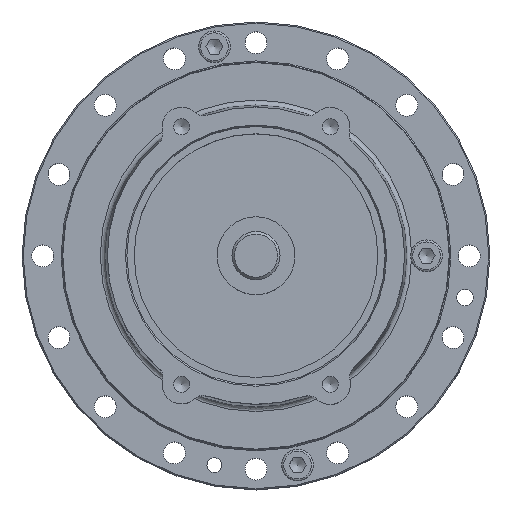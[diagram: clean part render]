
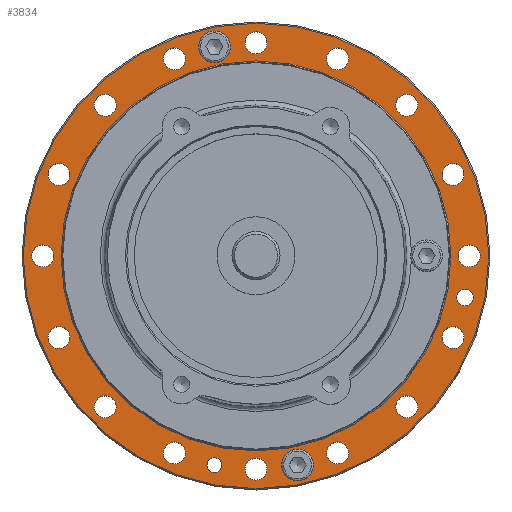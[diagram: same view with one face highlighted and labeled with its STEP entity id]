
A CAD part, top view. The second image highlights one B-rep face of the part: STEP entity #3834.
In plain terms, the highlighted planar face has unit normal (0, 0, 1).
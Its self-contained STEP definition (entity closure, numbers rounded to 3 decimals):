
#410=CARTESIAN_POINT('',(-14.02,-85.819,4.7));
#411=VERTEX_POINT('',#410);
#412=CARTESIAN_POINT('',(-17.07,-85.819,4.7));
#413=DIRECTION('',(0.0,0.0,-1.0));
#414=DIRECTION('',(-1.0,0.0,0.0));
#415=AXIS2_PLACEMENT_3D('',#412,#413,#414);
#416=CIRCLE('',#415,3.05);
#417=EDGE_CURVE('',#411,#411,#416,.T.);
#775=CARTESIAN_POINT('',(89.219,-17.07,4.7));
#776=VERTEX_POINT('',#775);
#777=CARTESIAN_POINT('',(85.819,-17.07,4.7));
#778=DIRECTION('',(0.0,0.0,-1.0));
#779=DIRECTION('',(-1.0,0.0,0.0));
#780=AXIS2_PLACEMENT_3D('',#777,#778,#779);
#781=CIRCLE('',#780,3.4);
#782=EDGE_CURVE('',#776,#776,#781,.T.);
#1466=CARTESIAN_POINT('',(20.394,-85.819,4.7));
#1467=VERTEX_POINT('',#1466);
#1468=CARTESIAN_POINT('',(17.07,-85.819,4.7));
#1469=DIRECTION('',(0.0,0.0,-1.0));
#1470=DIRECTION('',(-1.0,0.0,0.0));
#1471=AXIS2_PLACEMENT_3D('',#1468,#1469,#1470);
#1472=CIRCLE('',#1471,3.324);
#1473=EDGE_CURVE('',#1467,#1467,#1472,.T.);
#1515=CARTESIAN_POINT('',(-13.747,85.819,4.7));
#1516=VERTEX_POINT('',#1515);
#1517=CARTESIAN_POINT('',(-17.07,85.819,4.7));
#1518=DIRECTION('',(0.0,0.0,-1.0));
#1519=DIRECTION('',(-1.0,0.0,0.0));
#1520=AXIS2_PLACEMENT_3D('',#1517,#1518,#1519);
#1521=CIRCLE('',#1520,3.324);
#1522=EDGE_CURVE('',#1516,#1516,#1521,.T.);
#1564=CARTESIAN_POINT('',(65.054,-65.054,4.7));
#1565=VERTEX_POINT('',#1564);
#1566=CARTESIAN_POINT('',(61.872,-61.872,4.7));
#1567=DIRECTION('',(0.0,0.0,-1.0));
#1568=DIRECTION('',(-0.707,0.707,0.0));
#1569=AXIS2_PLACEMENT_3D('',#1566,#1567,#1568);
#1570=CIRCLE('',#1569,4.5);
#1571=EDGE_CURVE('',#1565,#1565,#1570,.T.);
#1613=CARTESIAN_POINT('',(35.207,-84.997,4.7));
#1614=VERTEX_POINT('',#1613);
#1615=CARTESIAN_POINT('',(33.485,-80.839,4.7));
#1616=DIRECTION('',(0.0,0.0,-1.));
#1617=DIRECTION('',(-0.383,0.924,0.0));
#1618=AXIS2_PLACEMENT_3D('',#1615,#1616,#1617);
#1619=CIRCLE('',#1618,4.5);
#1620=EDGE_CURVE('',#1614,#1614,#1619,.T.);
#1662=CARTESIAN_POINT('',(0.,-92.,4.7));
#1663=VERTEX_POINT('',#1662);
#1664=CARTESIAN_POINT('',(0.,-87.5,4.7));
#1665=DIRECTION('',(0.0,0.0,-1.0));
#1666=DIRECTION('',(0.0,1.0,0.0));
#1667=AXIS2_PLACEMENT_3D('',#1664,#1665,#1666);
#1668=CIRCLE('',#1667,4.5);
#1669=EDGE_CURVE('',#1663,#1663,#1668,.T.);
#1711=CARTESIAN_POINT('',(-35.207,-84.997,4.7));
#1712=VERTEX_POINT('',#1711);
#1713=CARTESIAN_POINT('',(-33.485,-80.839,4.7));
#1714=DIRECTION('',(0.0,0.0,-1.0));
#1715=DIRECTION('',(0.383,0.924,0.0));
#1716=AXIS2_PLACEMENT_3D('',#1713,#1714,#1715);
#1717=CIRCLE('',#1716,4.5);
#1718=EDGE_CURVE('',#1712,#1712,#1717,.T.);
#1760=CARTESIAN_POINT('',(-65.054,-65.054,4.7));
#1761=VERTEX_POINT('',#1760);
#1762=CARTESIAN_POINT('',(-61.872,-61.872,4.7));
#1763=DIRECTION('',(0.0,0.0,-1.));
#1764=DIRECTION('',(0.707,0.707,0.0));
#1765=AXIS2_PLACEMENT_3D('',#1762,#1763,#1764);
#1766=CIRCLE('',#1765,4.5);
#1767=EDGE_CURVE('',#1761,#1761,#1766,.T.);
#1809=CARTESIAN_POINT('',(-84.997,-35.207,4.7));
#1810=VERTEX_POINT('',#1809);
#1811=CARTESIAN_POINT('',(-80.839,-33.485,4.7));
#1812=DIRECTION('',(0.0,0.0,-1.0));
#1813=DIRECTION('',(0.924,0.383,0.0));
#1814=AXIS2_PLACEMENT_3D('',#1811,#1812,#1813);
#1815=CIRCLE('',#1814,4.5);
#1816=EDGE_CURVE('',#1810,#1810,#1815,.T.);
#1858=CARTESIAN_POINT('',(-92.,0.,4.7));
#1859=VERTEX_POINT('',#1858);
#1860=CARTESIAN_POINT('',(-87.5,0.,4.7));
#1861=DIRECTION('',(0.0,0.0,-1.0));
#1862=DIRECTION('',(1.0,0.0,0.0));
#1863=AXIS2_PLACEMENT_3D('',#1860,#1861,#1862);
#1864=CIRCLE('',#1863,4.5);
#1865=EDGE_CURVE('',#1859,#1859,#1864,.T.);
#1907=CARTESIAN_POINT('',(-84.997,35.207,4.7));
#1908=VERTEX_POINT('',#1907);
#1909=CARTESIAN_POINT('',(-80.839,33.485,4.7));
#1910=DIRECTION('',(0.0,0.0,-1.));
#1911=DIRECTION('',(0.924,-0.383,0.0));
#1912=AXIS2_PLACEMENT_3D('',#1909,#1910,#1911);
#1913=CIRCLE('',#1912,4.5);
#1914=EDGE_CURVE('',#1908,#1908,#1913,.T.);
#1956=CARTESIAN_POINT('',(-65.054,65.054,4.7));
#1957=VERTEX_POINT('',#1956);
#1958=CARTESIAN_POINT('',(-61.872,61.872,4.7));
#1959=DIRECTION('',(0.0,0.0,-1.0));
#1960=DIRECTION('',(0.707,-0.707,0.0));
#1961=AXIS2_PLACEMENT_3D('',#1958,#1959,#1960);
#1962=CIRCLE('',#1961,4.5);
#1963=EDGE_CURVE('',#1957,#1957,#1962,.T.);
#2005=CARTESIAN_POINT('',(-35.207,84.997,4.7));
#2006=VERTEX_POINT('',#2005);
#2007=CARTESIAN_POINT('',(-33.485,80.839,4.7));
#2008=DIRECTION('',(0.0,0.0,-1.));
#2009=DIRECTION('',(0.383,-0.924,0.0));
#2010=AXIS2_PLACEMENT_3D('',#2007,#2008,#2009);
#2011=CIRCLE('',#2010,4.5);
#2012=EDGE_CURVE('',#2006,#2006,#2011,.T.);
#2054=CARTESIAN_POINT('',(0.,92.,4.7));
#2055=VERTEX_POINT('',#2054);
#2056=CARTESIAN_POINT('',(0.,87.5,4.7));
#2057=DIRECTION('',(0.0,0.0,-1.0));
#2058=DIRECTION('',(0.0,-1.0,0.0));
#2059=AXIS2_PLACEMENT_3D('',#2056,#2057,#2058);
#2060=CIRCLE('',#2059,4.5);
#2061=EDGE_CURVE('',#2055,#2055,#2060,.T.);
#2103=CARTESIAN_POINT('',(35.207,84.997,4.7));
#2104=VERTEX_POINT('',#2103);
#2105=CARTESIAN_POINT('',(33.485,80.839,4.7));
#2106=DIRECTION('',(0.0,0.0,-1.));
#2107=DIRECTION('',(-0.383,-0.924,0.0));
#2108=AXIS2_PLACEMENT_3D('',#2105,#2106,#2107);
#2109=CIRCLE('',#2108,4.5);
#2110=EDGE_CURVE('',#2104,#2104,#2109,.T.);
#2152=CARTESIAN_POINT('',(65.054,65.054,4.7));
#2153=VERTEX_POINT('',#2152);
#2154=CARTESIAN_POINT('',(61.872,61.872,4.7));
#2155=DIRECTION('',(0.0,0.0,-1.));
#2156=DIRECTION('',(-0.707,-0.707,0.0));
#2157=AXIS2_PLACEMENT_3D('',#2154,#2155,#2156);
#2158=CIRCLE('',#2157,4.5);
#2159=EDGE_CURVE('',#2153,#2153,#2158,.T.);
#2201=CARTESIAN_POINT('',(84.997,35.207,4.7));
#2202=VERTEX_POINT('',#2201);
#2203=CARTESIAN_POINT('',(80.839,33.485,4.7));
#2204=DIRECTION('',(0.0,0.0,-1.));
#2205=DIRECTION('',(-0.924,-0.383,0.0));
#2206=AXIS2_PLACEMENT_3D('',#2203,#2204,#2205);
#2207=CIRCLE('',#2206,4.5);
#2208=EDGE_CURVE('',#2202,#2202,#2207,.T.);
#2250=CARTESIAN_POINT('',(84.997,-35.207,4.7));
#2251=VERTEX_POINT('',#2250);
#2252=CARTESIAN_POINT('',(80.839,-33.485,4.7));
#2253=DIRECTION('',(0.0,0.0,-1.0));
#2254=DIRECTION('',(-0.924,0.383,0.0));
#2255=AXIS2_PLACEMENT_3D('',#2252,#2253,#2254);
#2256=CIRCLE('',#2255,4.5);
#2257=EDGE_CURVE('',#2251,#2251,#2256,.T.);
#2299=CARTESIAN_POINT('',(92.,0.,4.7));
#2300=VERTEX_POINT('',#2299);
#2301=CARTESIAN_POINT('',(87.5,0.,4.7));
#2302=DIRECTION('',(0.0,0.0,-1.0));
#2303=DIRECTION('',(-1.0,0.0,0.0));
#2304=AXIS2_PLACEMENT_3D('',#2301,#2302,#2303);
#2305=CIRCLE('',#2304,4.5);
#2306=EDGE_CURVE('',#2300,#2300,#2305,.T.);
#3660=CARTESIAN_POINT('',(80.0,0.,4.7));
#3661=VERTEX_POINT('',#3660);
#3662=CARTESIAN_POINT('',(0.0,0.0,4.7));
#3663=DIRECTION('',(0.0,0.0,-1.0));
#3664=DIRECTION('',(-1.0,0.0,0.0));
#3665=AXIS2_PLACEMENT_3D('',#3662,#3663,#3664);
#3666=CIRCLE('',#3665,80.0);
#3667=EDGE_CURVE('',#3661,#3661,#3666,.T.);
#3748=CARTESIAN_POINT('',(95.5,0.,4.7));
#3749=VERTEX_POINT('',#3748);
#3750=CARTESIAN_POINT('',(0.0,0.0,4.7));
#3751=DIRECTION('',(0.0,0.0,-1.0));
#3752=DIRECTION('',(-1.0,0.0,0.0));
#3753=AXIS2_PLACEMENT_3D('',#3750,#3751,#3752);
#3754=CIRCLE('',#3753,95.5);
#3755=EDGE_CURVE('',#3749,#3749,#3754,.T.);
#3763=CARTESIAN_POINT('',(0.0,0.0,4.7));
#3764=DIRECTION('',(0.0,0.0,-1.0));
#3765=DIRECTION('',(-1.0,0.0,0.0));
#3766=AXIS2_PLACEMENT_3D('',#3763,#3764,#3765);
#3767=PLANE('',#3766);
#3768=ORIENTED_EDGE('',*,*,#3755,.F.);
#3769=EDGE_LOOP('',(#3768));
#3770=FACE_OUTER_BOUND('',#3769,.T.);
#3771=ORIENTED_EDGE('',*,*,#417,.T.);
#3772=EDGE_LOOP('',(#3771));
#3773=FACE_BOUND('',#3772,.T.);
#3774=ORIENTED_EDGE('',*,*,#782,.T.);
#3775=EDGE_LOOP('',(#3774));
#3776=FACE_BOUND('',#3775,.T.);
#3777=ORIENTED_EDGE('',*,*,#1473,.T.);
#3778=EDGE_LOOP('',(#3777));
#3779=FACE_BOUND('',#3778,.T.);
#3780=ORIENTED_EDGE('',*,*,#1522,.T.);
#3781=EDGE_LOOP('',(#3780));
#3782=FACE_BOUND('',#3781,.T.);
#3783=ORIENTED_EDGE('',*,*,#1571,.T.);
#3784=EDGE_LOOP('',(#3783));
#3785=FACE_BOUND('',#3784,.T.);
#3786=ORIENTED_EDGE('',*,*,#1620,.T.);
#3787=EDGE_LOOP('',(#3786));
#3788=FACE_BOUND('',#3787,.T.);
#3789=ORIENTED_EDGE('',*,*,#1669,.T.);
#3790=EDGE_LOOP('',(#3789));
#3791=FACE_BOUND('',#3790,.T.);
#3792=ORIENTED_EDGE('',*,*,#1718,.T.);
#3793=EDGE_LOOP('',(#3792));
#3794=FACE_BOUND('',#3793,.T.);
#3795=ORIENTED_EDGE('',*,*,#1767,.T.);
#3796=EDGE_LOOP('',(#3795));
#3797=FACE_BOUND('',#3796,.T.);
#3798=ORIENTED_EDGE('',*,*,#1816,.T.);
#3799=EDGE_LOOP('',(#3798));
#3800=FACE_BOUND('',#3799,.T.);
#3801=ORIENTED_EDGE('',*,*,#1865,.T.);
#3802=EDGE_LOOP('',(#3801));
#3803=FACE_BOUND('',#3802,.T.);
#3804=ORIENTED_EDGE('',*,*,#1914,.T.);
#3805=EDGE_LOOP('',(#3804));
#3806=FACE_BOUND('',#3805,.T.);
#3807=ORIENTED_EDGE('',*,*,#1963,.T.);
#3808=EDGE_LOOP('',(#3807));
#3809=FACE_BOUND('',#3808,.T.);
#3810=ORIENTED_EDGE('',*,*,#2012,.T.);
#3811=EDGE_LOOP('',(#3810));
#3812=FACE_BOUND('',#3811,.T.);
#3813=ORIENTED_EDGE('',*,*,#2061,.T.);
#3814=EDGE_LOOP('',(#3813));
#3815=FACE_BOUND('',#3814,.T.);
#3816=ORIENTED_EDGE('',*,*,#2110,.T.);
#3817=EDGE_LOOP('',(#3816));
#3818=FACE_BOUND('',#3817,.T.);
#3819=ORIENTED_EDGE('',*,*,#2159,.T.);
#3820=EDGE_LOOP('',(#3819));
#3821=FACE_BOUND('',#3820,.T.);
#3822=ORIENTED_EDGE('',*,*,#2208,.T.);
#3823=EDGE_LOOP('',(#3822));
#3824=FACE_BOUND('',#3823,.T.);
#3825=ORIENTED_EDGE('',*,*,#2257,.T.);
#3826=EDGE_LOOP('',(#3825));
#3827=FACE_BOUND('',#3826,.T.);
#3828=ORIENTED_EDGE('',*,*,#2306,.T.);
#3829=EDGE_LOOP('',(#3828));
#3830=FACE_BOUND('',#3829,.T.);
#3831=ORIENTED_EDGE('',*,*,#3667,.T.);
#3832=EDGE_LOOP('',(#3831));
#3833=FACE_BOUND('',#3832,.T.);
#3834=ADVANCED_FACE('',(#3770,#3773,#3776,#3779,#3782,#3785,#3788,#3791,#3794,#3797,#3800,#3803,#3806,#3809,#3812,#3815,#3818,#3821,#3824,#3827,#3830,#3833),#3767,.F.);
